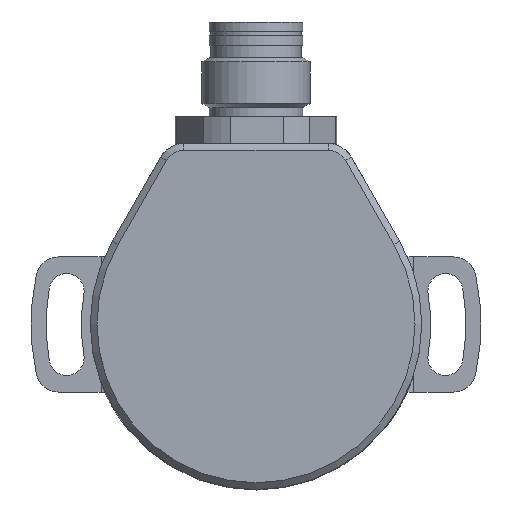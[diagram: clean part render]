
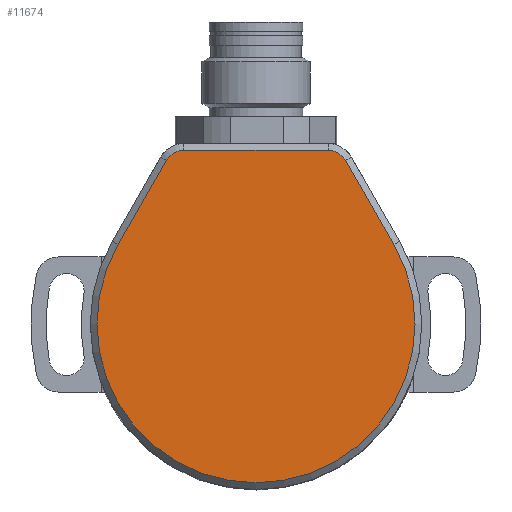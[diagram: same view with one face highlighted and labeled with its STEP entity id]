
A CAD part, top view. The second image highlights one B-rep face of the part: STEP entity #11674.
In plain terms, the highlighted planar face has unit normal (0, 0, 1).
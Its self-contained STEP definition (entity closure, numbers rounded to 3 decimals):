
#565=CIRCLE('',#12331,2.25);
#566=CIRCLE('',#12332,2.25);
#567=CIRCLE('',#12333,17.65);
#1332=ORIENTED_EDGE('',*,*,#3303,.T.);
#1333=ORIENTED_EDGE('',*,*,#3304,.T.);
#1334=ORIENTED_EDGE('',*,*,#3305,.T.);
#1335=ORIENTED_EDGE('',*,*,#3306,.T.);
#1336=ORIENTED_EDGE('',*,*,#3307,.T.);
#1337=ORIENTED_EDGE('',*,*,#3308,.T.);
#3303=EDGE_CURVE('',#4325,#4326,#565,.T.);
#3304=EDGE_CURVE('',#4326,#4327,#5071,.T.);
#3305=EDGE_CURVE('',#4327,#4328,#566,.T.);
#3306=EDGE_CURVE('',#4328,#4329,#5072,.T.);
#3307=EDGE_CURVE('',#4329,#4330,#567,.T.);
#3308=EDGE_CURVE('',#4330,#4325,#5073,.T.);
#4325=VERTEX_POINT('',#16219);
#4326=VERTEX_POINT('',#16220);
#4327=VERTEX_POINT('',#16222);
#4328=VERTEX_POINT('',#16224);
#4329=VERTEX_POINT('',#16226);
#4330=VERTEX_POINT('',#16228);
#5071=LINE('',#16221,#5569);
#5072=LINE('',#16225,#5570);
#5073=LINE('',#16229,#5571);
#5569=VECTOR('',#13645,1000.);
#5570=VECTOR('',#13648,1000.);
#5571=VECTOR('',#13651,1000.);
#6098=EDGE_LOOP('',(#1332,#1333,#1334,#1335,#1336,#1337));
#6886=FACE_BOUND('',#6098,.T.);
#7589=PLANE('',#12330);
#11674=ADVANCED_FACE('',(#6886),#7589,.T.);
#12330=AXIS2_PLACEMENT_3D('',#16217,#13641,#13642);
#12331=AXIS2_PLACEMENT_3D('',#16218,#13643,#13644);
#12332=AXIS2_PLACEMENT_3D('',#16223,#13646,#13647);
#12333=AXIS2_PLACEMENT_3D('',#16227,#13649,#13650);
#13641=DIRECTION('',(0.,0.,1.));
#13642=DIRECTION('',(1.,0.,0.));
#13643=DIRECTION('',(0.,0.,1.));
#13644=DIRECTION('',(1.,0.,0.));
#13645=DIRECTION('',(-1.,0.,0.));
#13646=DIRECTION('',(0.,0.,1.));
#13647=DIRECTION('',(1.,0.,0.));
#13648=DIRECTION('',(-0.498,-0.867,0.));
#13649=DIRECTION('',(0.,0.,1.));
#13650=DIRECTION('',(1.,0.,0.));
#13651=DIRECTION('',(-0.498,0.867,0.));
#16217=CARTESIAN_POINT('',(0.,0.,48.1));
#16218=CARTESIAN_POINT('',(8.,17.,48.1));
#16219=CARTESIAN_POINT('',(9.952,18.12,48.1));
#16220=CARTESIAN_POINT('',(8.,19.25,48.1));
#16221=CARTESIAN_POINT('',(-8.,19.25,48.1));
#16222=CARTESIAN_POINT('',(-8.,19.25,48.1));
#16223=CARTESIAN_POINT('',(-8.,17.,48.1));
#16224=CARTESIAN_POINT('',(-9.951,18.12,48.1));
#16225=CARTESIAN_POINT('',(-15.308,8.785,48.1));
#16226=CARTESIAN_POINT('',(-15.308,8.785,48.1));
#16227=CARTESIAN_POINT('',(0.,0.,48.1));
#16228=CARTESIAN_POINT('',(15.309,8.785,48.1));
#16229=CARTESIAN_POINT('',(9.952,18.12,48.1));
